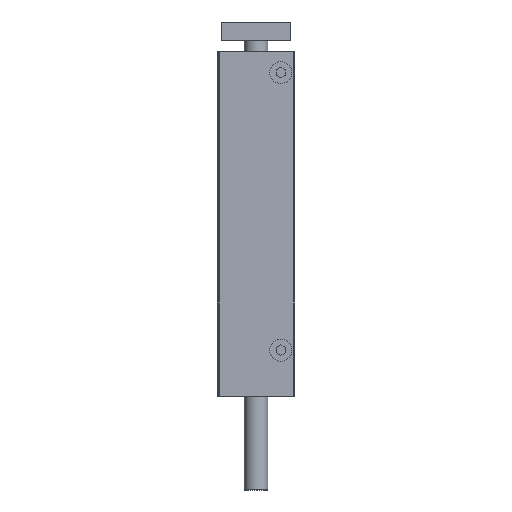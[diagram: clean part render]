
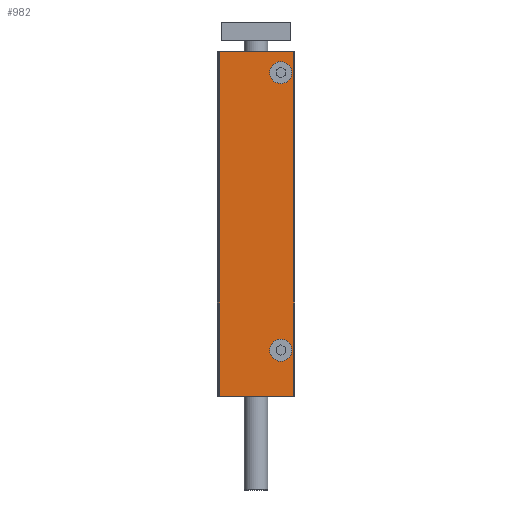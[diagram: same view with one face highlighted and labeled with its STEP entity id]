
A CAD part, front view. The second image highlights one B-rep face of the part: STEP entity #982.
In plain terms, the highlighted planar face has unit normal (0, -1, 0).
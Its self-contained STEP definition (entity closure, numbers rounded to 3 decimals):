
#982 = ADVANCED_FACE( '', ( #2075, #2076, #2077 ), #2078, .T. );
#2075 = FACE_BOUND( '', #3243, .T. );
#2076 = FACE_BOUND( '', #3244, .T. );
#2077 = FACE_OUTER_BOUND( '', #3245, .T. );
#2078 = PLANE( '', #3246 );
#3243 = EDGE_LOOP( '', ( #5727 ) );
#3244 = EDGE_LOOP( '', ( #5728 ) );
#3245 = EDGE_LOOP( '', ( #5729, #5730, #5731, #5732 ) );
#3246 = AXIS2_PLACEMENT_3D( '', #5733, #5734, #5735 );
#5727 = ORIENTED_EDGE( '', *, *, #7360, .T. );
#5728 = ORIENTED_EDGE( '', *, *, #6745, .T. );
#5729 = ORIENTED_EDGE( '', *, *, #7361, .F. );
#5730 = ORIENTED_EDGE( '', *, *, #6898, .F. );
#5731 = ORIENTED_EDGE( '', *, *, #7005, .T. );
#5732 = ORIENTED_EDGE( '', *, *, #7225, .T. );
#5733 = CARTESIAN_POINT( '', ( -20., -46.5, -187.5 ) );
#5734 = DIRECTION( '', ( 0., -1., 0. ) );
#5735 = DIRECTION( '', ( 0., 0., -1. ) );
#6745 = EDGE_CURVE( '', #8112, #8112, #8113, .T. );
#6898 = EDGE_CURVE( '', #8341, #8337, #8343, .T. );
#7005 = EDGE_CURVE( '', #8341, #8504, #8506, .T. );
#7225 = EDGE_CURVE( '', #8504, #8811, #8814, .T. );
#7360 = EDGE_CURVE( '', #8974, #8974, #8975, .T. );
#7361 = EDGE_CURVE( '', #8337, #8811, #8976, .T. );
#8112 = VERTEX_POINT( '', #10059 );
#8113 = CIRCLE( '', #10060, 6. );
#8337 = VERTEX_POINT( '', #10381 );
#8341 = VERTEX_POINT( '', #10387 );
#8343 = LINE( '', #10390, #10391 );
#8504 = VERTEX_POINT( '', #10626 );
#8506 = LINE( '', #10629, #10630 );
#8811 = VERTEX_POINT( '', #11063 );
#8814 = LINE( '', #11067, #11068 );
#8974 = VERTEX_POINT( '', #11288 );
#8975 = CIRCLE( '', #11289, 6. );
#8976 = LINE( '', #11290, #11291 );
#10059 = CARTESIAN_POINT( '', ( 19.5, -46.5, -11.5 ) );
#10060 = AXIS2_PLACEMENT_3D( '', #11862, #11863, #11864 );
#10381 = CARTESIAN_POINT( '', ( -20., -46.5, 0. ) );
#10387 = CARTESIAN_POINT( '', ( -20., -46.5, -187.5 ) );
#10390 = CARTESIAN_POINT( '', ( -20., -46.5, -187.5 ) );
#10391 = VECTOR( '', #12044, 1000. );
#10626 = CARTESIAN_POINT( '', ( 20.5, -46.5, -187.5 ) );
#10629 = CARTESIAN_POINT( '', ( -20., -46.5, -187.5 ) );
#10630 = VECTOR( '', #12172, 1000. );
#11063 = CARTESIAN_POINT( '', ( 20.5, -46.5, 0. ) );
#11067 = CARTESIAN_POINT( '', ( 20.5, -46.5, -187.5 ) );
#11068 = VECTOR( '', #12458, 1000. );
#11288 = CARTESIAN_POINT( '', ( 19.5, -46.5, -162.5 ) );
#11289 = AXIS2_PLACEMENT_3D( '', #12591, #12592, #12593 );
#11290 = CARTESIAN_POINT( '', ( -20., -46.5, 0. ) );
#11291 = VECTOR( '', #12594, 1000. );
#11862 = CARTESIAN_POINT( '', ( 13.5, -46.5, -11.5 ) );
#11863 = DIRECTION( '', ( 0., 1., 0. ) );
#11864 = DIRECTION( '', ( 1., 0., 0. ) );
#12044 = DIRECTION( '', ( 0., 0., 1. ) );
#12172 = DIRECTION( '', ( 1., 0., 0. ) );
#12458 = DIRECTION( '', ( 0., 0., 1. ) );
#12591 = CARTESIAN_POINT( '', ( 13.5, -46.5, -162.5 ) );
#12592 = DIRECTION( '', ( 0., 1., 0. ) );
#12593 = DIRECTION( '', ( 1., 0., 0. ) );
#12594 = DIRECTION( '', ( 1., 0., 0. ) );
